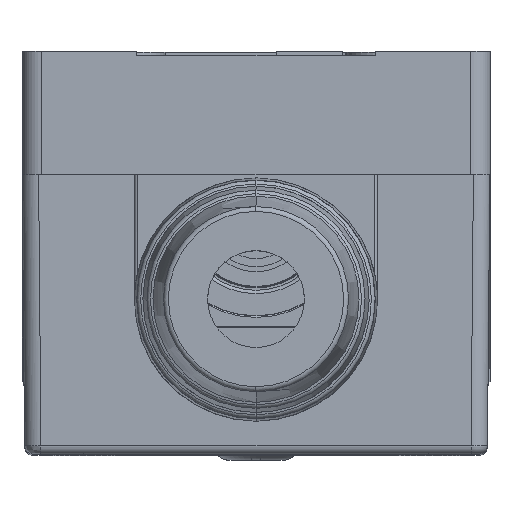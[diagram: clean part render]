
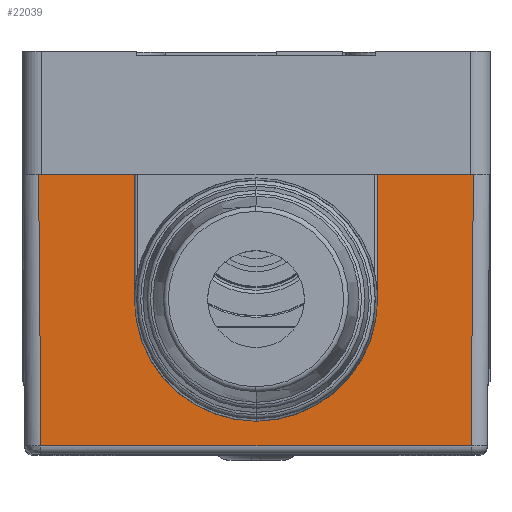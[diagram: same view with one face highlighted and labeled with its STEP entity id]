
A CAD part, top view. The second image highlights one B-rep face of the part: STEP entity #22039.
In plain terms, the highlighted planar face has unit normal (0, -0.009, 1).
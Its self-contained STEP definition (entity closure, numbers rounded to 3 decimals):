
#5690=CARTESIAN_POINT('',(13.299,3.853,-33.48));
#5692=DIRECTION('',(-1.,0.,0.));
#5693=VECTOR('',#5692,7.549);
#5694=CARTESIAN_POINT('',(13.299,3.853,-33.48));
#5695=LINE('',#5694,#5693);
#5744=DIRECTION('',(-1.,0.,0.));
#5745=VECTOR('',#5744,7.549);
#5746=CARTESIAN_POINT('',(-5.65,3.853,
-33.48));
#5747=LINE('',#5746,#5745);
#7554=DIRECTION('',(1.,0.,0.));
#7555=VECTOR('',#7554,26.191);
#7556=CARTESIAN_POINT('',(-13.045,-13.751,
-33.633));
#7557=LINE('',#7556,#7555);
#7734=DIRECTION('',(-0.009,-1.,-0.009));
#7735=VECTOR('',#7734,17.606);
#7736=CARTESIAN_POINT('',(13.299,3.853,-33.48));
#7737=LINE('',#7736,#7735);
#7738=DIRECTION('',(-0.009,1.,0.009));
#7739=VECTOR('',#7738,17.606);
#7740=CARTESIAN_POINT('',(-13.045,-13.751,
-33.633));
#7741=LINE('',#7740,#7739);
#7742=CARTESIAN_POINT('',(-5.65,-4.846,
-33.556));
#7743=CARTESIAN_POINT('',(-5.65,-5.518,
-33.561));
#7744=CARTESIAN_POINT('',(-5.407,-6.969,
-33.574));
#7745=CARTESIAN_POINT('',(-4.1,-8.998,
-33.592));
#7746=CARTESIAN_POINT('',(-2.414,-10.085,
-33.601));
#7747=CARTESIAN_POINT('',(-0.979,-10.487,
-33.605));
#7748=CARTESIAN_POINT('',(0.05,-10.577,
-33.606));
#7749=CARTESIAN_POINT('',(1.08,-10.487,
-33.605));
#7750=CARTESIAN_POINT('',(2.514,-10.085,
-33.601));
#7751=CARTESIAN_POINT('',(4.2,-8.998,
-33.592));
#7752=CARTESIAN_POINT('',(5.507,-6.969,
-33.574));
#7753=CARTESIAN_POINT('',(5.75,-5.518,
-33.561));
#7754=CARTESIAN_POINT('',(5.75,-4.846,
-33.556));
#7760=DIRECTION('',(0.,1.,0.009));
#7761=VECTOR('',#7760,8.7);
#7762=CARTESIAN_POINT('',(-5.65,-4.847,
-33.556));
#7763=LINE('',#7762,#7761);
#7778=DIRECTION('',(0.,-1.,-0.009));
#7779=VECTOR('',#7778,8.7);
#7780=CARTESIAN_POINT('',(5.75,3.853,-33.48));
#7781=LINE('',#7780,#7779);
#10915=CARTESIAN_POINT('',(13.146,-13.751,
-33.633));
#10916=VERTEX_POINT('',#10915);
#10917=CARTESIAN_POINT('',(-13.045,-13.751,
-33.633));
#10918=VERTEX_POINT('',#10917);
#10986=VERTEX_POINT('',#7742);
#10987=VERTEX_POINT('',#7754);
#12677=VERTEX_POINT('',#5690);
#12678=CARTESIAN_POINT('',(5.75,3.853,
-33.48));
#12679=VERTEX_POINT('',#12678);
#12680=CARTESIAN_POINT('',(-5.65,3.853,
-33.48));
#12681=CARTESIAN_POINT('',(-13.199,3.853,
-33.48));
#12682=VERTEX_POINT('',#12680);
#12683=VERTEX_POINT('',#12681);
#22021=CARTESIAN_POINT('',(0.05,-4.899,-33.556));
#22022=DIRECTION('',(0.,-0.009,1.));
#22023=DIRECTION('',(-1.,0.,0.));
#22024=AXIS2_PLACEMENT_3D('',#22021,#22022,#22023);
#22025=PLANE('',#22024);
#22026=ORIENTED_EDGE('',*,*,#19372,.F.);
#22027=ORIENTED_EDGE('',*,*,#19419,.T.);
#22028=ORIENTED_EDGE('',*,*,#21639,.F.);
#22029=ORIENTED_EDGE('',*,*,#19357,.T.);
#22030=ORIENTED_EDGE('',*,*,#19398,.F.);
#22032=ORIENTED_EDGE('',*,*,#22031,.F.);
#22034=ORIENTED_EDGE('',*,*,#22033,.T.);
#22036=ORIENTED_EDGE('',*,*,#22035,.F.);
#22037=EDGE_LOOP('',(#22026,#22027,#22028,#22029,#22030,#22032,#22034,#22036));
#22038=FACE_OUTER_BOUND('',#22037,.F.);
#22039=ADVANCED_FACE('',(#22038),#22025,.T.);
#7755=B_SPLINE_CURVE_WITH_KNOTS('',3,(#7742,#7743,#7744,#7745,#7746,#7747,#7748,
#7749,#7750,#7751,#7752,#7753,#7754),.UNSPECIFIED.,.F.,.F.,(4,1,1,1,1,1,1,1,1,1,
4),(0.,0.125,0.25,0.375,0.438,0.5,0.563,0.625,0.75,0.875,
1.),.UNSPECIFIED.);
#19357=EDGE_CURVE('',#10918,#12683,#7741,.T.);
#19372=EDGE_CURVE('',#12677,#12679,#5695,.T.);
#19398=EDGE_CURVE('',#12682,#12683,#5747,.T.);
#19419=EDGE_CURVE('',#12677,#10916,#7737,.T.);
#21639=EDGE_CURVE('',#10918,#10916,#7557,.T.);
#22031=EDGE_CURVE('',#10986,#12682,#7763,.T.);
#22033=EDGE_CURVE('',#10986,#10987,#7755,.T.);
#22035=EDGE_CURVE('',#12679,#10987,#7781,.T.);
